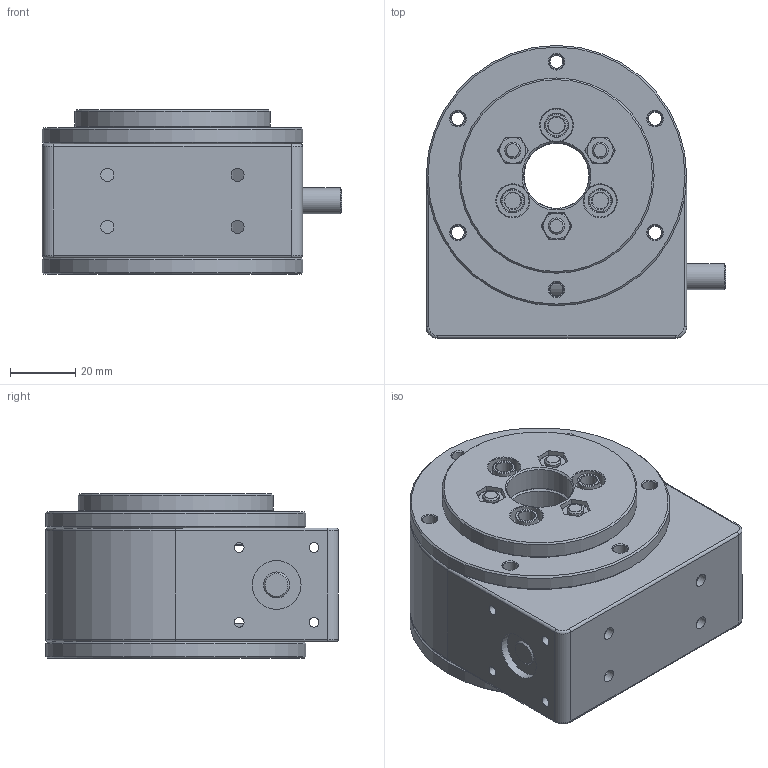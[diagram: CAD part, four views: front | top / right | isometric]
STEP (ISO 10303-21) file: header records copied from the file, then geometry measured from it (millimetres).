
FILE_DESCRIPTION((''),'2;1');
FILE_NAME('I:\Gleitlager\Konstruktion\robolink\Vorserie\RL-D\RL-D Gelenke\Simpel STEP 102\RL-D-20-102-38-standard.stp','2015-05-19T11:14:16',('mraak'),(''),'Autodesk Inventor 2013','Autodesk Inventor 2013','');
FILE_SCHEMA(('AUTOMOTIVE_DESIGN { 1 0 10303 214 1 1 1 1 }'));
Length unit declared in the file: millimetre
Products named in the file (9): ___RL-D-20-102-38-00004; ___RL-D-20-0XXXX; ___RL-D-20-X0XXX; PRT-02-20-AL; 8; 7; 1; 4; ___RL-D-20-XXX4X
Assembly tree (12 placements, depth 3):
  ___RL-D-20-102-38-00004
    ___RL-D-20-0XXXX
    ___RL-D-20-X0XXX
    PRT-02-20-AL
      8
      7
      1  x3
      4  x3
    ___RL-D-20-XXX4X
Bounding box: 92 x 90 x 50.5 mm (x, y, z)
Volume: 130329.1 mm3; surface area: 74588.5 mm2
Topology: 11 solids, 11 shells, 417 faces, 959 edges, 599 vertices
Faces by surface type: plane 141, cone 136, cylinder 127, torus 13
Full cylindrical faces by diameter (mm): 2.5 x3, 3 x8, 4 x22, 4.2 x3, 4.3 x6, 4.5 x6, 5 x9, 7 x9, 8 x4, 8.5 x3, 10 x6, 15 x3, 20 x3, 20.2 x2, 39.99 x2, 40 x1, 60 x3, 62 x2, 80 x2
Entity records: 8464 total; most frequent: DIRECTION 1488, CARTESIAN_POINT 1404, ORIENTED_EDGE 1074, AXIS2_PLACEMENT_3D 657, EDGE_LOOP 624, EDGE_CURVE 537, VERTEX_POINT 435, CIRCLE 321
